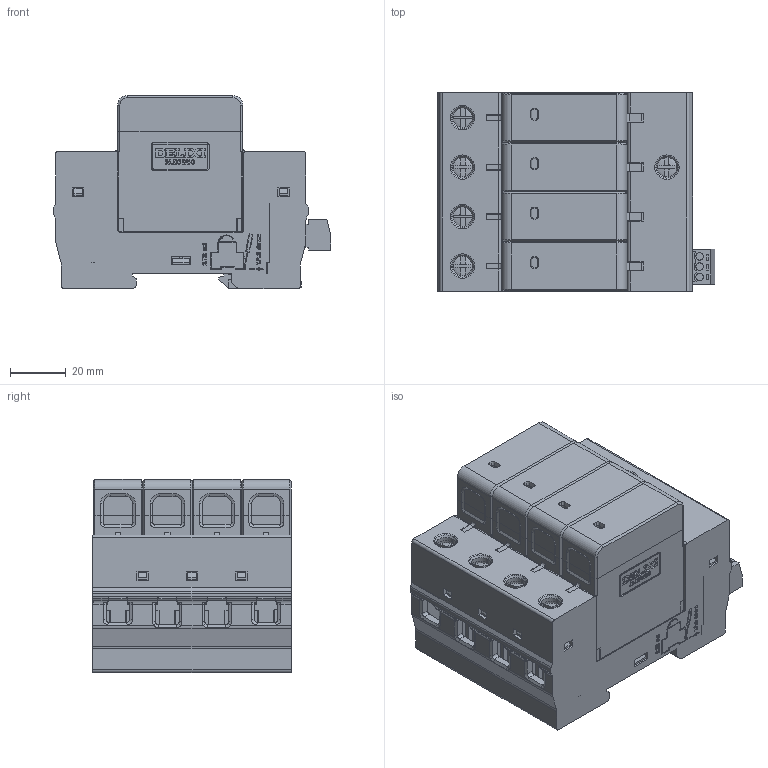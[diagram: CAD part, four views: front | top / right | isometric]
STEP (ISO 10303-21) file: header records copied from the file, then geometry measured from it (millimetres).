
FILE_DESCRIPTION((''),'2;1');
FILE_NAME('DZ47VY-65-4P_ASM','2024-01-31T',('linxiao.guan'),(''),'PRO/ENGINEER BY PARAMETRIC TECHNOLOGY CORPORATION, 2015440','PRO/ENGINEER BY PARAMETRIC TECHNOLOGY CORPORATION, 2015440','');
FILE_SCHEMA(('CONFIG_CONTROL_DESIGN'));
Products named in the file (7): MANIFOLD_SOLID_BREP_159034_AF0_; MANIFOLD_SOLID_BREP_159184_1; 2DLX_207_001_46_ASM_SW0001__AF0_ASM; PRT0002; 2DLX_207_001_1_DZ47Y-65_4P_ASM__ASM; 15EDGK-3_81-3_15EDGRC-3_81-3; DZ47VY-65-4P_ASM
Assembly tree (9 placements, depth 4):
  DZ47VY-65-4P_ASM
    2DLX_207_001_1_DZ47Y-65_4P_ASM__ASM
      2DLX_207_001_46_ASM_SW0001__AF0_ASM
        MANIFOLD_SOLID_BREP_159034_AF0_
        MANIFOLD_SOLID_BREP_159184_1
      PRT0002  x4
    15EDGK-3_81-3_15EDGRC-3_81-3
Bounding box: 100 x 71.6 x 69.5 mm (x, y, z)
Volume: 125279.4 mm3; surface area: 158393.2 mm2
Topology: 7 solids, 7 shells, 7148 faces, 20554 edges, 13587 vertices
Faces by surface type: plane 6389, cylinder 569, cone 110, torus 42, sphere 20, bspline 18
Entity records: 173492 total; most frequent: CARTESIAN_POINT 35909, ORIENTED_EDGE 30072, DIRECTION 26189, EDGE_CURVE 15036, VECTOR 13549, LINE 13549, VERTEX_POINT 9939, AXIS2_PLACEMENT_3D 6320
